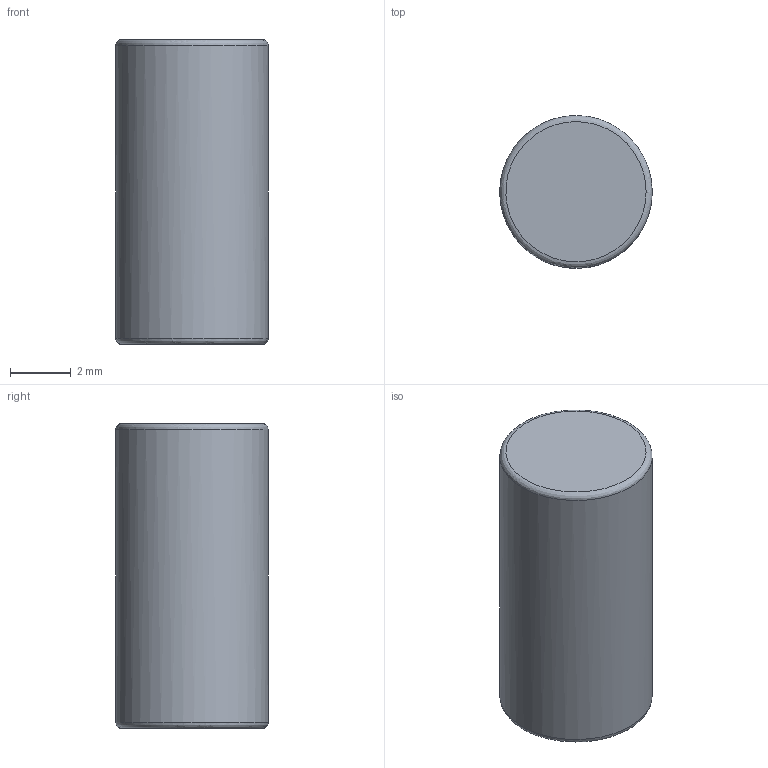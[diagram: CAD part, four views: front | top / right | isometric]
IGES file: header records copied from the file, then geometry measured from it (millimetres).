
Global section: file name: 18.05.10; native system: Autodesk Inventor 2014; preprocessor: unknown; author: APto; date: 20150519.085530; units: millimetre
Bounding box: 5 x 5 x 10 mm (x, y, z)
Volume: 196.4 mm3; surface area: 193.9 mm2
Topology: 1 solids, 1 shells, 5 faces, 7 edges, 4 vertices
Faces by surface type: bspline 5
